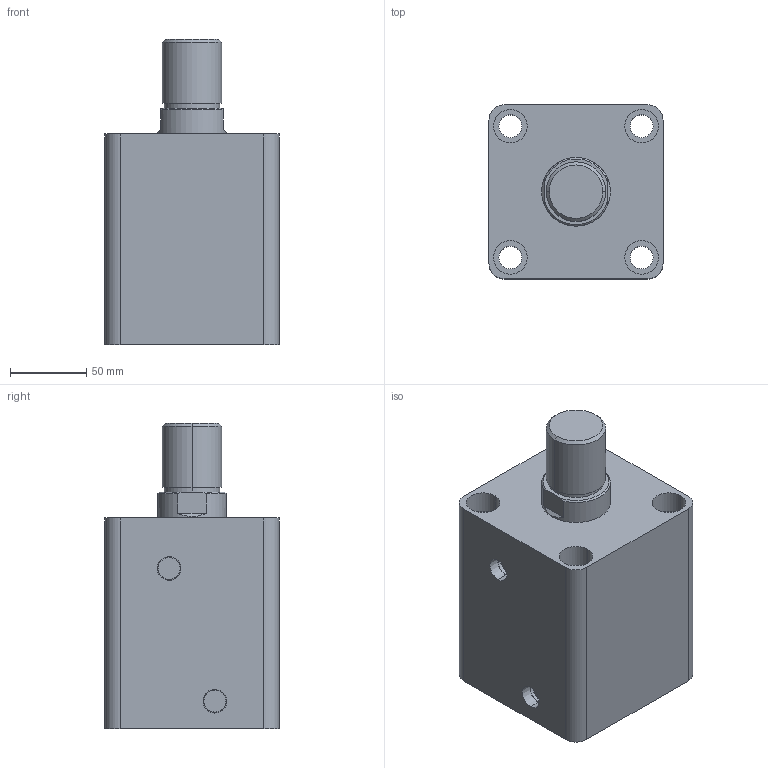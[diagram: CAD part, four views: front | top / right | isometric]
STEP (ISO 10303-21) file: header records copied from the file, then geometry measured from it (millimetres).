
FILE_DESCRIPTION (( 'STEP AP203' ), '1' );
FILE_NAME ('HTB-SD80-60W.STEP', '2019-10-07T08:32:13', ( '微软用户' ), ( '微软中国' ), 'SwSTEP 2.0', 'SolidWorks 2012', '' );
FILE_SCHEMA (( 'CONFIG_CONTROL_DESIGN' ));
Length unit declared in the file: millimetre
Products named in the file (3): HTB-SD80-60W; HTB-SD80-60W活塞杆; HTB-SD80-60掛极
Assembly tree (2 placements, depth 2):
  HTB-SD80-60W
    HTB-SD80-60掛极
    HTB-SD80-60W活塞杆
Bounding box: 114 x 114 x 200 mm (x, y, z)
Volume: 1529028.3 mm3; surface area: 187382 mm2
Topology: 2 solids, 2 shells, 87 faces, 190 edges, 124 vertices
Faces by surface type: cylinder 44, plane 29, cone 8, torus 6
Entity records: 2761 total; most frequent: DIRECTION 478, CARTESIAN_POINT 434, ORIENTED_EDGE 380, AXIS2_PLACEMENT_3D 204, EDGE_CURVE 190, VERTEX_POINT 124, EDGE_LOOP 112, CIRCLE 112
